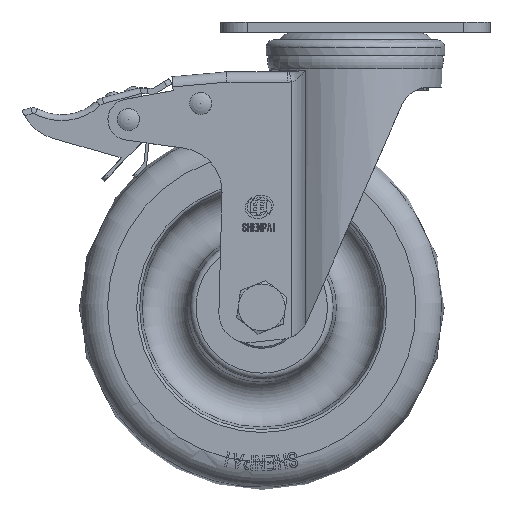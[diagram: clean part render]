
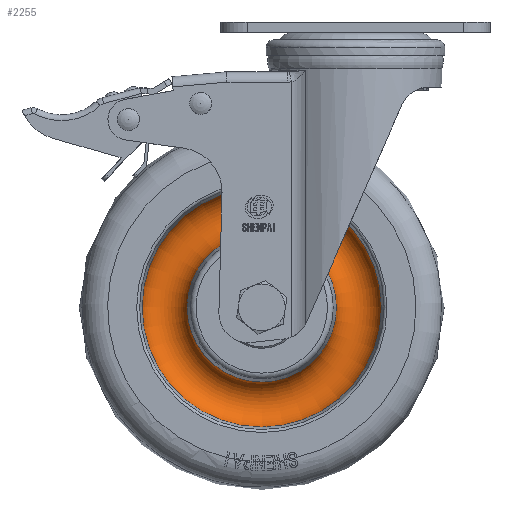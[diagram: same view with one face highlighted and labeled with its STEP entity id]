
A CAD part, front view. The second image highlights one B-rep face of the part: STEP entity #2255.
In plain terms, the highlighted toroidal (fillet/blend) face has major radius 33.201 mm and minor radius 8 mm.
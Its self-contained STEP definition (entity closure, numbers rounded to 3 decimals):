
#542=TOROIDAL_SURFACE('',#21182,33.201,8.);
#2255=ADVANCED_FACE('',(#6900,#6901),#542,.F.);
#6900=FACE_BOUND('',#7889,.T.);
#6901=FACE_BOUND('',#7890,.T.);
#7889=EDGE_LOOP('',(#12350));
#7890=EDGE_LOOP('',(#12351));
#12350=ORIENTED_EDGE('',*,*,#18194,.T.);
#12351=ORIENTED_EDGE('',*,*,#18195,.F.);
#15547=VERTEX_POINT('',#37273);
#15548=VERTEX_POINT('',#37276);
#18194=EDGE_CURVE('',#15547,#15547,#19694,.T.);
#18195=EDGE_CURVE('',#15548,#15548,#19695,.T.);
#19694=CIRCLE('',#21179,25.474);
#19695=CIRCLE('',#21181,40.928);
#21179=AXIS2_PLACEMENT_3D('',#37272,#25177,#25178);
#21181=AXIS2_PLACEMENT_3D('',#37275,#25181,#25182);
#21182=AXIS2_PLACEMENT_3D('',#37277,#25183,#25184);
#25177=DIRECTION('',(0.,1.,0.));
#25178=DIRECTION('',(-1.,0.,0.));
#25181=DIRECTION('',(0.,1.,0.));
#25182=DIRECTION('',(-1.,0.,0.));
#25183=DIRECTION('',(0.,1.,0.));
#25184=DIRECTION('',(1.,0.,0.));
#37272=CARTESIAN_POINT('',(-32.,-12.251,-97.5));
#37273=CARTESIAN_POINT('',(-57.474,-12.251,-97.5));
#37275=CARTESIAN_POINT('',(-32.,-12.251,-97.5));
#37276=CARTESIAN_POINT('',(-72.928,-12.251,-97.5));
#37277=CARTESIAN_POINT('',(-32.,-14.321,-97.5));
